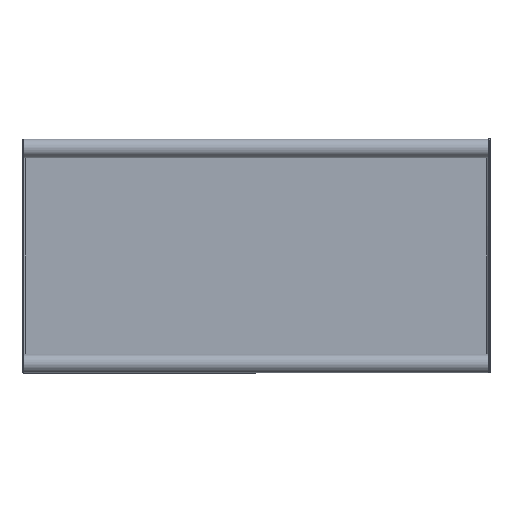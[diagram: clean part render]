
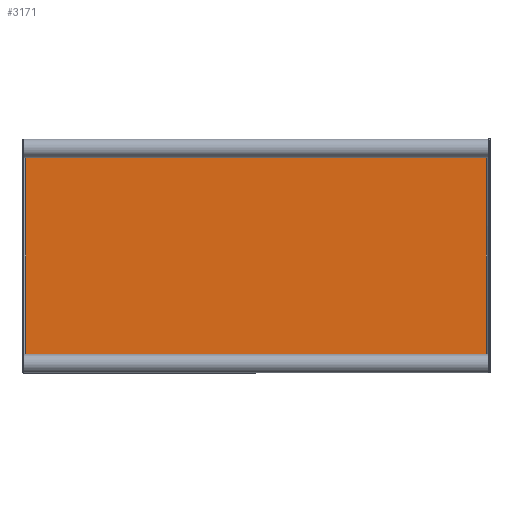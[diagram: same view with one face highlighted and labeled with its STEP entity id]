
A CAD part, front view. The second image highlights one B-rep face of the part: STEP entity #3171.
In plain terms, the highlighted planar face has unit normal (0, -1, 0).
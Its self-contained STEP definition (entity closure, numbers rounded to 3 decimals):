
#125 = AXIS2_PLACEMENT_3D ( 'NONE', #2507, #1924, #4149 ) ;
#155 = CARTESIAN_POINT ( 'NONE',  ( 245., -2., 121. ) ) ;
#229 = DIRECTION ( 'NONE',  ( 0., -1., 0. ) ) ;
#373 = AXIS2_PLACEMENT_3D ( 'NONE', #8176, #2038, #8283 ) ;
#508 = DIRECTION ( 'NONE',  ( 1., 0., 0. ) ) ;
#563 = CARTESIAN_POINT ( 'NONE',  ( 245., -2., -121. ) ) ;
#691 = VECTOR ( 'NONE', #3711, 1000. ) ;
#742 = EDGE_CURVE ( 'NONE', #4631, #2491, #5812, .T. ) ;
#882 = LINE ( 'NONE', #4616, #1354 ) ;
#1354 = VECTOR ( 'NONE', #4712, 1000. ) ;
#1543 = CARTESIAN_POINT ( 'NONE',  ( -245., -2., 121. ) ) ;
#1582 = CARTESIAN_POINT ( 'NONE',  ( 249., -2., 124. ) ) ;
#1611 = DIRECTION ( 'NONE',  ( 0., 0., 1. ) ) ;
#1858 = ORIENTED_EDGE ( 'NONE', *, *, #6972, .T. ) ;
#1924 = DIRECTION ( 'NONE',  ( 0., -1., 0. ) ) ;
#2038 = DIRECTION ( 'NONE',  ( 0., 1., 0. ) ) ;
#2100 = CARTESIAN_POINT ( 'NONE',  ( -245., -2., -121. ) ) ;
#2326 = CARTESIAN_POINT ( 'NONE',  ( -246., -2., 120. ) ) ;
#2418 = DIRECTION ( 'NONE',  ( 0., 0., 1. ) ) ;
#2491 = VERTEX_POINT ( 'NONE', #563 ) ;
#2507 = CARTESIAN_POINT ( 'NONE',  ( -249., -2., 124. ) ) ;
#2597 = DIRECTION ( 'NONE',  ( 0., 0., 1. ) ) ;
#2631 = EDGE_CURVE ( 'NONE', #4489, #2990, #4452, .T. ) ;
#2691 = EDGE_CURVE ( 'NONE', #8675, #8803, #7384, .T. ) ;
#2937 = FACE_OUTER_BOUND ( 'NONE', #7797, .T. ) ;
#2990 = VERTEX_POINT ( 'NONE', #155 ) ;
#3125 = CARTESIAN_POINT ( 'NONE',  ( -249., -2., 121. ) ) ;
#3171 = ADVANCED_FACE ( 'NONE', ( #2937 ), #5990, .F. ) ;
#3193 = VECTOR ( 'NONE', #508, 1000. ) ;
#3572 = LINE ( 'NONE', #5055, #3193 ) ;
#3711 = DIRECTION ( 'NONE',  ( 1., 0., 0. ) ) ;
#3895 = AXIS2_PLACEMENT_3D ( 'NONE', #1582, #3967, #2418 ) ;
#3939 = LINE ( 'NONE', #8470, #5576 ) ;
#3967 = DIRECTION ( 'NONE',  ( 0., -1., 0. ) ) ;
#4097 = DIRECTION ( 'NONE',  ( 0., -1., 0. ) ) ;
#4120 = CARTESIAN_POINT ( 'NONE',  ( 246., -2., -120. ) ) ;
#4149 = DIRECTION ( 'NONE',  ( 0., 0., 1. ) ) ;
#4452 = LINE ( 'NONE', #3125, #691 ) ;
#4478 = ORIENTED_EDGE ( 'NONE', *, *, #742, .F. ) ;
#4489 = VERTEX_POINT ( 'NONE', #1543 ) ;
#4616 = CARTESIAN_POINT ( 'NONE',  ( -246., -2., -124. ) ) ;
#4631 = VERTEX_POINT ( 'NONE', #4120 ) ;
#4712 = DIRECTION ( 'NONE',  ( 0., 0., 1. ) ) ;
#4848 = ORIENTED_EDGE ( 'NONE', *, *, #2691, .F. ) ;
#5055 = CARTESIAN_POINT ( 'NONE',  ( -249., -2., -121. ) ) ;
#5300 = EDGE_CURVE ( 'NONE', #8803, #9418, #882, .T. ) ;
#5343 = CIRCLE ( 'NONE', #3895, 5. ) ;
#5482 = AXIS2_PLACEMENT_3D ( 'NONE', #9430, #4097, #7132 ) ;
#5576 = VECTOR ( 'NONE', #1611, 1000. ) ;
#5653 = CARTESIAN_POINT ( 'NONE',  ( 249., -2., -124. ) ) ;
#5812 = CIRCLE ( 'NONE', #7062, 5. ) ;
#5990 = PLANE ( 'NONE',  #373 ) ;
#6297 = ORIENTED_EDGE ( 'NONE', *, *, #6577, .T. ) ;
#6332 = CARTESIAN_POINT ( 'NONE',  ( 246., -2., 120. ) ) ;
#6577 = EDGE_CURVE ( 'NONE', #4631, #8100, #3939, .T. ) ;
#6972 = EDGE_CURVE ( 'NONE', #8675, #2491, #3572, .T. ) ;
#7062 = AXIS2_PLACEMENT_3D ( 'NONE', #5653, #229, #2597 ) ;
#7075 = ORIENTED_EDGE ( 'NONE', *, *, #5300, .F. ) ;
#7128 = EDGE_CURVE ( 'NONE', #9418, #4489, #9438, .T. ) ;
#7132 = DIRECTION ( 'NONE',  ( 0., 0., 1. ) ) ;
#7330 = ORIENTED_EDGE ( 'NONE', *, *, #2631, .F. ) ;
#7384 = CIRCLE ( 'NONE', #5482, 5. ) ;
#7526 = EDGE_CURVE ( 'NONE', #2990, #8100, #5343, .T. ) ;
#7797 = EDGE_LOOP ( 'NONE', ( #4478, #6297, #8826, #7330, #8298, #7075, #4848, #1858 ) ) ;
#8100 = VERTEX_POINT ( 'NONE', #6332 ) ;
#8176 = CARTESIAN_POINT ( 'NONE',  ( -249., -2., -124. ) ) ;
#8283 = DIRECTION ( 'NONE',  ( 0., 0., 1. ) ) ;
#8298 = ORIENTED_EDGE ( 'NONE', *, *, #7128, .F. ) ;
#8470 = CARTESIAN_POINT ( 'NONE',  ( 246., -2., -124. ) ) ;
#8675 = VERTEX_POINT ( 'NONE', #2100 ) ;
#8803 = VERTEX_POINT ( 'NONE', #8959 ) ;
#8826 = ORIENTED_EDGE ( 'NONE', *, *, #7526, .F. ) ;
#8959 = CARTESIAN_POINT ( 'NONE',  ( -246., -2., -120. ) ) ;
#9418 = VERTEX_POINT ( 'NONE', #2326 ) ;
#9430 = CARTESIAN_POINT ( 'NONE',  ( -249., -2., -124. ) ) ;
#9438 = CIRCLE ( 'NONE', #125, 5. ) ;
